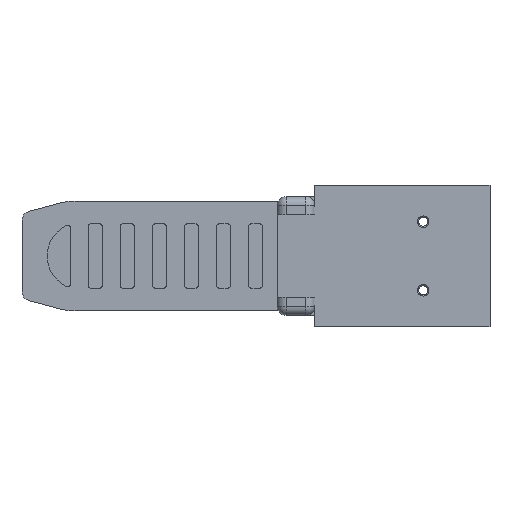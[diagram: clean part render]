
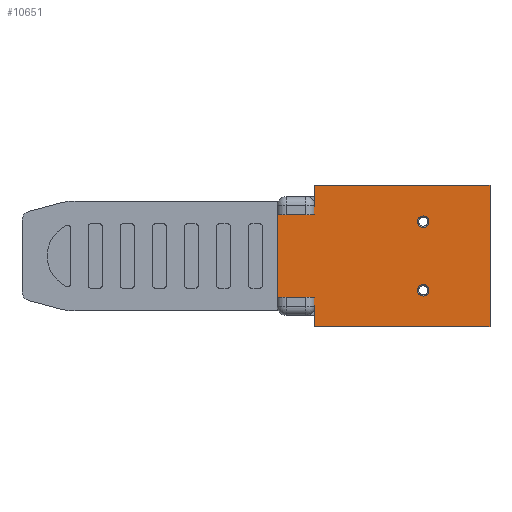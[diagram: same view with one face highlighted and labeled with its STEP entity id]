
A CAD part, front view. The second image highlights one B-rep face of the part: STEP entity #10651.
In plain terms, the highlighted planar face has unit normal (0, -1, 0).
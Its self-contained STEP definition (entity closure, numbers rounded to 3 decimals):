
#481 = VERTEX_POINT ( 'NONE', #5825 ) ;
#607 = CARTESIAN_POINT ( 'NONE',  ( 27.5, -5., -15.5 ) ) ;
#664 = AXIS2_PLACEMENT_3D ( 'NONE', #820, #8521, #1939 ) ;
#820 = CARTESIAN_POINT ( 'NONE',  ( 12.9, -5., -7.5 ) ) ;
#1271 = VERTEX_POINT ( 'NONE', #13139 ) ;
#1377 = LINE ( 'NONE', #10051, #4319 ) ;
#1700 = ORIENTED_EDGE ( 'NONE', *, *, #7544, .T. ) ;
#1715 = EDGE_LOOP ( 'NONE', ( #10402, #1700 ) ) ;
#1779 = CARTESIAN_POINT ( 'NONE',  ( -19., -5., 15.5 ) ) ;
#1828 = ORIENTED_EDGE ( 'NONE', *, *, #3821, .T. ) ;
#1924 = VERTEX_POINT ( 'NONE', #4904 ) ;
#1927 = EDGE_CURVE ( 'NONE', #9635, #12302, #2222, .T. ) ;
#1939 = DIRECTION ( 'NONE',  ( 0., 0., 1. ) ) ;
#2139 = CARTESIAN_POINT ( 'NONE',  ( -19., -5., -15.5 ) ) ;
#2222 = LINE ( 'NONE', #5937, #10612 ) ;
#2235 = FACE_BOUND ( 'NONE', #9594, .T. ) ;
#2236 = VECTOR ( 'NONE', #9810, 1000. ) ;
#2397 = DIRECTION ( 'NONE',  ( 1., 0., 0. ) ) ;
#2469 = CARTESIAN_POINT ( 'NONE',  ( 12.9, -5., -7.5 ) ) ;
#2589 = CARTESIAN_POINT ( 'NONE',  ( -19., -5., 15.5 ) ) ;
#2731 = EDGE_LOOP ( 'NONE', ( #2907, #7422, #13016, #4199, #4929, #8833, #7273, #9627 ) ) ;
#2802 = DIRECTION ( 'NONE',  ( 1., 0., 0. ) ) ;
#2886 = EDGE_CURVE ( 'NONE', #10994, #8710, #10988, .T. ) ;
#2907 = ORIENTED_EDGE ( 'NONE', *, *, #6263, .F. ) ;
#3187 = EDGE_CURVE ( 'NONE', #1271, #8710, #8082, .T. ) ;
#3281 = VECTOR ( 'NONE', #10786, 1000. ) ;
#3388 = LINE ( 'NONE', #1779, #5982 ) ;
#3572 = DIRECTION ( 'NONE',  ( 0., 0., 1. ) ) ;
#3642 = CARTESIAN_POINT ( 'NONE',  ( 27.5, -5., 15.5 ) ) ;
#3702 = DIRECTION ( 'NONE',  ( 0., 0., 1. ) ) ;
#3751 = CARTESIAN_POINT ( 'NONE',  ( 12.9, -5., 7.5 ) ) ;
#3821 = EDGE_CURVE ( 'NONE', #9132, #8989, #10072, .T. ) ;
#3866 = CIRCLE ( 'NONE', #664, 1.25 ) ;
#3977 = VERTEX_POINT ( 'NONE', #4855 ) ;
#4016 = VECTOR ( 'NONE', #12173, 1000. ) ;
#4183 = VECTOR ( 'NONE', #11455, 1000. ) ;
#4199 = ORIENTED_EDGE ( 'NONE', *, *, #2886, .F. ) ;
#4319 = VECTOR ( 'NONE', #2397, 1000. ) ;
#4354 = VERTEX_POINT ( 'NONE', #13804 ) ;
#4364 = LINE ( 'NONE', #5684, #4016 ) ;
#4680 = CARTESIAN_POINT ( 'NONE',  ( 27.5, -5., 15.5 ) ) ;
#4781 = DIRECTION ( 'NONE',  ( 0., 0., -1. ) ) ;
#4855 = CARTESIAN_POINT ( 'NONE',  ( 12.9, -5., 6.25 ) ) ;
#4890 = DIRECTION ( 'NONE',  ( 0., 0., 1. ) ) ;
#4904 = CARTESIAN_POINT ( 'NONE',  ( -10.8, -5., -10.9 ) ) ;
#4929 = ORIENTED_EDGE ( 'NONE', *, *, #13970, .F. ) ;
#5178 = CIRCLE ( 'NONE', #12289, 1.25 ) ;
#5220 = VECTOR ( 'NONE', #4781, 1000. ) ;
#5348 = CARTESIAN_POINT ( 'NONE',  ( 12.9, -5., 7.5 ) ) ;
#5520 = EDGE_CURVE ( 'NONE', #8989, #9132, #3866, .T. ) ;
#5684 = CARTESIAN_POINT ( 'NONE',  ( -10.8, -5., 15.5 ) ) ;
#5825 = CARTESIAN_POINT ( 'NONE',  ( -10.8, -5., 15.5 ) ) ;
#5937 = CARTESIAN_POINT ( 'NONE',  ( -19., -5., 10.9 ) ) ;
#5982 = VECTOR ( 'NONE', #8350, 1000. ) ;
#6176 = EDGE_CURVE ( 'NONE', #481, #12302, #4364, .T. ) ;
#6263 = EDGE_CURVE ( 'NONE', #1924, #7901, #7098, .T. ) ;
#6417 = EDGE_CURVE ( 'NONE', #4354, #3977, #9636, .T. ) ;
#6424 = DIRECTION ( 'NONE',  ( 0., 0., 1. ) ) ;
#6877 = CARTESIAN_POINT ( 'NONE',  ( 12.9, -5., -8.75 ) ) ;
#6899 = CARTESIAN_POINT ( 'NONE',  ( -19., -5., -10.9 ) ) ;
#7098 = LINE ( 'NONE', #6899, #4183 ) ;
#7228 = CARTESIAN_POINT ( 'NONE',  ( -10.8, -5., 10.9 ) ) ;
#7273 = ORIENTED_EDGE ( 'NONE', *, *, #1927, .F. ) ;
#7422 = ORIENTED_EDGE ( 'NONE', *, *, #10349, .T. ) ;
#7544 = EDGE_CURVE ( 'NONE', #3977, #4354, #5178, .T. ) ;
#7762 = FACE_OUTER_BOUND ( 'NONE', #2731, .T. ) ;
#7901 = VERTEX_POINT ( 'NONE', #13744 ) ;
#8082 = LINE ( 'NONE', #2139, #2236 ) ;
#8212 = AXIS2_PLACEMENT_3D ( 'NONE', #2589, #10246, #3702 ) ;
#8350 = DIRECTION ( 'NONE',  ( 0., 0., -1. ) ) ;
#8521 = DIRECTION ( 'NONE',  ( 0., 1., 0. ) ) ;
#8710 = VERTEX_POINT ( 'NONE', #607 ) ;
#8833 = ORIENTED_EDGE ( 'NONE', *, *, #6176, .T. ) ;
#8989 = VERTEX_POINT ( 'NONE', #6877 ) ;
#9124 = PLANE ( 'NONE',  #8212 ) ;
#9132 = VERTEX_POINT ( 'NONE', #9299 ) ;
#9299 = CARTESIAN_POINT ( 'NONE',  ( 12.9, -5., -6.25 ) ) ;
#9594 = EDGE_LOOP ( 'NONE', ( #1828, #11934 ) ) ;
#9627 = ORIENTED_EDGE ( 'NONE', *, *, #11192, .T. ) ;
#9635 = VERTEX_POINT ( 'NONE', #12358 ) ;
#9636 = CIRCLE ( 'NONE', #10827, 1.25 ) ;
#9810 = DIRECTION ( 'NONE',  ( 1., 0., 0. ) ) ;
#10051 = CARTESIAN_POINT ( 'NONE',  ( -19., -5., 15.5 ) ) ;
#10072 = CIRCLE ( 'NONE', #13018, 1.25 ) ;
#10126 = DIRECTION ( 'NONE',  ( 0., 1., 0. ) ) ;
#10246 = DIRECTION ( 'NONE',  ( 0., 1., 0. ) ) ;
#10349 = EDGE_CURVE ( 'NONE', #1924, #1271, #11988, .T. ) ;
#10402 = ORIENTED_EDGE ( 'NONE', *, *, #6417, .T. ) ;
#10612 = VECTOR ( 'NONE', #2802, 1000. ) ;
#10622 = FACE_BOUND ( 'NONE', #1715, .T. ) ;
#10651 = ADVANCED_FACE ( 'NONE', ( #2235, #10622, #7762 ), #9124, .F. ) ;
#10786 = DIRECTION ( 'NONE',  ( 0., 0., -1. ) ) ;
#10827 = AXIS2_PLACEMENT_3D ( 'NONE', #5348, #12926, #6424 ) ;
#10988 = LINE ( 'NONE', #3642, #5220 ) ;
#10994 = VERTEX_POINT ( 'NONE', #4680 ) ;
#11192 = EDGE_CURVE ( 'NONE', #9635, #7901, #3388, .T. ) ;
#11382 = DIRECTION ( 'NONE',  ( 0., 1., 0. ) ) ;
#11455 = DIRECTION ( 'NONE',  ( -1., 0., 0. ) ) ;
#11934 = ORIENTED_EDGE ( 'NONE', *, *, #5520, .T. ) ;
#11988 = LINE ( 'NONE', #14009, #3281 ) ;
#12173 = DIRECTION ( 'NONE',  ( 0., 0., -1. ) ) ;
#12289 = AXIS2_PLACEMENT_3D ( 'NONE', #3751, #11382, #4890 ) ;
#12302 = VERTEX_POINT ( 'NONE', #7228 ) ;
#12358 = CARTESIAN_POINT ( 'NONE',  ( -19., -5., 10.9 ) ) ;
#12926 = DIRECTION ( 'NONE',  ( 0., 1., 0. ) ) ;
#13016 = ORIENTED_EDGE ( 'NONE', *, *, #3187, .T. ) ;
#13018 = AXIS2_PLACEMENT_3D ( 'NONE', #2469, #10126, #3572 ) ;
#13139 = CARTESIAN_POINT ( 'NONE',  ( -10.8, -5., -15.5 ) ) ;
#13744 = CARTESIAN_POINT ( 'NONE',  ( -19., -5., -10.9 ) ) ;
#13804 = CARTESIAN_POINT ( 'NONE',  ( 12.9, -5., 8.75 ) ) ;
#13970 = EDGE_CURVE ( 'NONE', #481, #10994, #1377, .T. ) ;
#14009 = CARTESIAN_POINT ( 'NONE',  ( -10.8, -5., 15.5 ) ) ;
